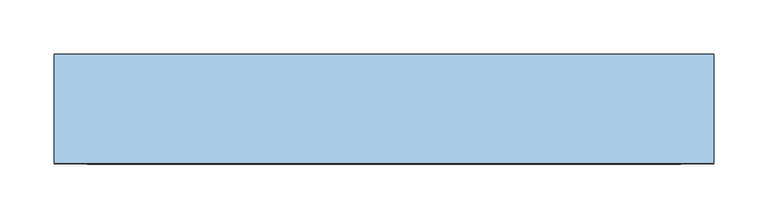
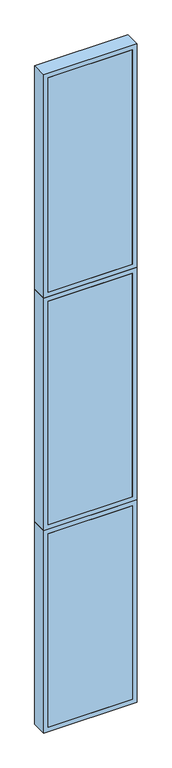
"""IFC4 building model written with IfcOpenShell, lengths in millimetres: window geometry, TRP_CP_ARC_FI_V1 : AL_P03_60.5."""

from ifc_helpers import new_model, si_unit, frame, origin, place, context, project, spatial, polyline, outline, extrude, source, transform, mapped, element, save


def window_feeec594(model_context):
    return source(origin(), model_context, "Body", "SweptSolid", [
        extrude(outline(polyline([(272.5, -50.0), (-272.5, -50.0), (-272.5, -30.0), (272.5, -30.0), (272.5, -50.0)])), frame((0.0, 0.0, 30.0), z_axis=(0.0, 0.0, 1.0), x_axis=(1.0, 0.0, 0.0)), (0.0, 0.0, 1.0), 1323.0),
        extrude(outline(polyline([(1383.0, 302.5), (1383.0, -302.5), (0.0, -302.5), (0.0, 302.5), (1383.0, 302.5)]), holes=[polyline([(30.0, 272.5), (30.0, -272.5), (1353.0, -272.5), (1353.0, 272.5), (30.0, 272.5)])]), frame((0.0, -50.0, 0.0), z_axis=(0.0, 1.0, 0.0), x_axis=(0.0, 0.0, 1.0)), (0.0, 0.0, 1.0), 100.0),
        extrude(outline(polyline([(2973.0, 302.5), (2973.0, -302.5), (1383.0, -302.5), (1383.0, 302.5), (2973.0, 302.5)]), holes=[polyline([(1413.0, 272.5), (1413.0, -272.5), (2943.0, -272.5), (2943.0, 272.5), (1413.0, 272.5)])]), frame((0.0, -50.0, 0.0), z_axis=(0.0, 1.0, 0.0), x_axis=(0.0, 0.0, 1.0)), (0.0, 0.0, 1.0), 100.0),
        extrude(outline(polyline([(272.5, -50.0), (-272.5, -50.0), (-272.5, -30.0), (272.5, -30.0), (272.5, -50.0)])), frame((0.0, 0.0, 1413.0), z_axis=(0.0, 0.0, 1.0), x_axis=(1.0, 0.0, 0.0)), (0.0, 0.0, 1.0), 1530.0),
        extrude(outline(polyline([(4500.0, 302.5), (4500.0, -302.5), (2973.0, -302.5), (2973.0, 302.5), (4500.0, 302.5)]), holes=[polyline([(3003.0, 272.5), (3003.0, -272.5), (4470.0, -272.5), (4470.0, 272.5), (3003.0, 272.5)])]), frame((0.0, -50.0, 0.0), z_axis=(0.0, 1.0, 0.0), x_axis=(0.0, 0.0, 1.0)), (0.0, 0.0, 1.0), 100.0),
        extrude(outline(polyline([(272.5, -50.0), (-272.5, -50.0), (-272.5, -30.0), (272.5, -30.0), (272.5, -50.0)])), frame((0.0, 0.0, 3003.0), z_axis=(0.0, 0.0, 1.0), x_axis=(1.0, 0.0, 0.0)), (0.0, 0.0, 1.0), 1467.0),
    ])


if __name__ == "__main__":
    model = new_model("IFC4")
    model_context = context("Model", 3, world=origin())
    ifc_project = project(units=[si_unit("LENGTHUNIT", "METRE", prefix="MILLI")], contexts=[model_context])
    site = spatial("IfcSite", under=ifc_project)
    building = spatial("IfcBuilding", under=site)
    placement = place(None, origin())
    window_shape = window_feeec594(model_context)
    element("IfcWindow", 1, ObjectType="TRP_CP_ARC_FI_V1 : AL_P03_60.5", at=placement, inside=building, context=model_context, shape_type="MappedRepresentation", body=[
        mapped(window_shape, transform((0.0, 0.0, 0.0), x_axis=(1.0, 0.0, 0.0), y_axis=(0.0, 1.0, 0.0), z_axis=(0.0, 0.0, 1.0))),
    ])
    save(model, "model.ifc")
